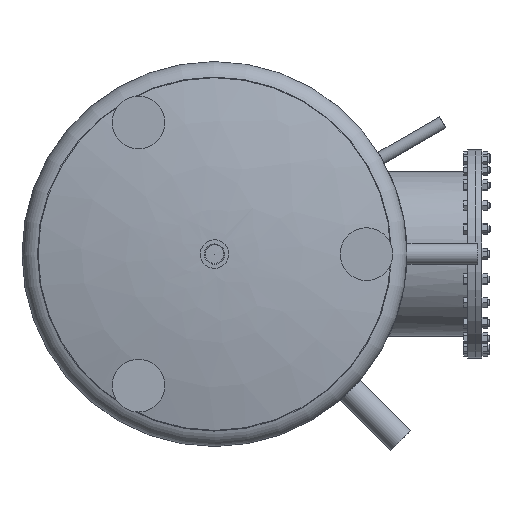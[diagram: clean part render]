
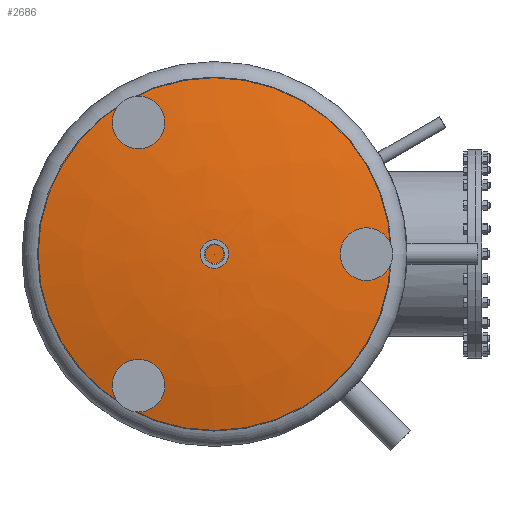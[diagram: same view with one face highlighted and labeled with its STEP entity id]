
A CAD part, front view. The second image highlights one B-rep face of the part: STEP entity #2686.
In plain terms, the highlighted free-form (B-spline) face has degree [2, 2] with [3, 9] control points.
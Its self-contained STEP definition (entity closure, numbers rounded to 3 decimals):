
#309=(
BOUNDED_SURFACE()
B_SPLINE_SURFACE(2,2,((#4787,#4788,#4789,#4790,#4791,#4792,#4793,#4794,
#4795),(#4796,#4797,#4798,#4799,#4800,#4801,#4802,#4803,#4804),(#4805,#4806,
#4807,#4808,#4809,#4810,#4811,#4812,#4813)),.UNSPECIFIED.,.F.,.T.,.F.)
B_SPLINE_SURFACE_WITH_KNOTS((3,3),(3,2,2,2,3),(-1.576,-1.331),
(-3.142,-1.571,0.,1.571,3.142),
 .UNSPECIFIED.)
GEOMETRIC_REPRESENTATION_ITEM()
RATIONAL_B_SPLINE_SURFACE(((1.,0.707,1.,0.707,1.,
0.707,1.,0.707,1.),(0.993,0.702,
0.993,0.702,0.993,0.702,
0.993,0.702,0.993),(1.,0.707,
1.,0.707,1.,0.707,1.,0.707,1.)))
REPRESENTATION_ITEM('')
SURFACE()
);
#567=FACE_OUTER_BOUND('',#712,.T.);
#712=EDGE_LOOP('',(#2056,#2057,#2058));
#1252=CIRCLE('',#3147,436.87);
#1253=CIRCLE('',#3148,1800.);
#1442=VERTEX_POINT('',#4814);
#1443=VERTEX_POINT('',#4816);
#1675=EDGE_CURVE('',#1442,#1442,#1252,.T.);
#1676=EDGE_CURVE('',#1442,#1443,#1253,.T.);
#2056=ORIENTED_EDGE('',*,*,#1675,.F.);
#2057=ORIENTED_EDGE('',*,*,#1676,.T.);
#2058=ORIENTED_EDGE('',*,*,#1676,.F.);
#2686=ADVANCED_FACE('',(#567),#309,.F.);
#3147=AXIS2_PLACEMENT_3D('',#4815,#3639,#3640);
#3148=AXIS2_PLACEMENT_3D('',#4817,#3641,#3642);
#3639=DIRECTION('center_axis',(0.,-1.,0.));
#3640=DIRECTION('ref_axis',(1.,0.,0.));
#3641=DIRECTION('center_axis',(-1.,0.,0.));
#3642=DIRECTION('ref_axis',(0.,0.,
1.));
#4787=CARTESIAN_POINT('Ctrl Pts',(0.,0.,0.));
#4788=CARTESIAN_POINT('Ctrl Pts',(0.,0.,
0.));
#4789=CARTESIAN_POINT('Ctrl Pts',(0.,0.,
0.));
#4790=CARTESIAN_POINT('Ctrl Pts',(0.,0.,
0.));
#4791=CARTESIAN_POINT('Ctrl Pts',(0.,0.,0.));
#4792=CARTESIAN_POINT('Ctrl Pts',(0.,0.,
0.));
#4793=CARTESIAN_POINT('Ctrl Pts',(0.,0.,
0.));
#4794=CARTESIAN_POINT('Ctrl Pts',(0.,0.,
0.));
#4795=CARTESIAN_POINT('Ctrl Pts',(0.,0.,0.));
#4796=CARTESIAN_POINT('Ctrl Pts',(0.,1.178,221.601));
#4797=CARTESIAN_POINT('Ctrl Pts',(-221.601,1.178,221.601));
#4798=CARTESIAN_POINT('Ctrl Pts',(-221.601,1.178,0.));
#4799=CARTESIAN_POINT('Ctrl Pts',(-221.601,1.178,-221.601));
#4800=CARTESIAN_POINT('Ctrl Pts',(0.,1.178,-221.601));
#4801=CARTESIAN_POINT('Ctrl Pts',(221.601,1.178,-221.601));
#4802=CARTESIAN_POINT('Ctrl Pts',(221.601,1.178,0.));
#4803=CARTESIAN_POINT('Ctrl Pts',(221.601,1.178,221.601));
#4804=CARTESIAN_POINT('Ctrl Pts',(0.,1.178,221.601));
#4805=CARTESIAN_POINT('Ctrl Pts',(0.,-51.429,436.87));
#4806=CARTESIAN_POINT('Ctrl Pts',(-436.87,-51.429,436.87));
#4807=CARTESIAN_POINT('Ctrl Pts',(-436.87,-51.429,0.));
#4808=CARTESIAN_POINT('Ctrl Pts',(-436.87,-51.429,-436.87));
#4809=CARTESIAN_POINT('Ctrl Pts',(0.,-51.429,-436.87));
#4810=CARTESIAN_POINT('Ctrl Pts',(436.87,-51.429,-436.87));
#4811=CARTESIAN_POINT('Ctrl Pts',(436.87,-51.429,0.));
#4812=CARTESIAN_POINT('Ctrl Pts',(436.87,-51.429,436.87));
#4813=CARTESIAN_POINT('Ctrl Pts',(0.,-51.429,436.87));
#4814=CARTESIAN_POINT('',(0.,-51.429,436.87));
#4815=CARTESIAN_POINT('Origin',(0.,-51.429,0.));
#4816=CARTESIAN_POINT('',(0.,0.,0.));
#4817=CARTESIAN_POINT('Origin',(0.,-1799.975,
9.565));
